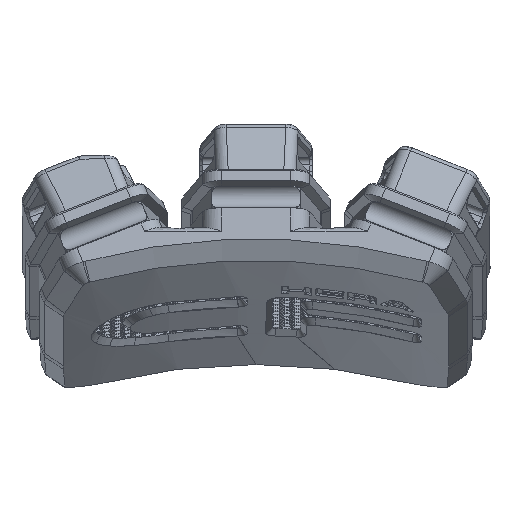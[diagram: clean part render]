
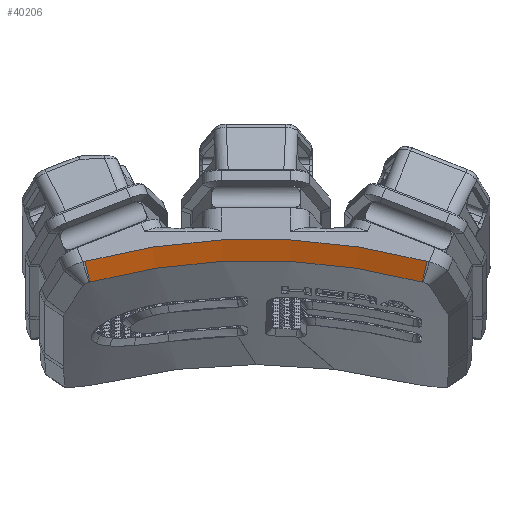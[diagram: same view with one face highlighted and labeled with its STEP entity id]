
A CAD part, left-side view. The second image highlights one B-rep face of the part: STEP entity #40206.
In plain terms, the highlighted conical face has half-angle 56.31 degrees and reference radius 103 mm.
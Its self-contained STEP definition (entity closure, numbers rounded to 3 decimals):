
#3044=LINE('',#57157,#5564);
#3045=LINE('',#57160,#5565);
#5564=VECTOR('',#46735,1000.);
#5565=VECTOR('',#46738,1000.);
#8077=CONICAL_SURFACE('',#42775,103.,0.983);
#9544=FACE_OUTER_BOUND('',#12065,.T.);
#12065=EDGE_LOOP('',(#27307,#27308,#27309,#27310));
#14702=CIRCLE('',#42776,100.);
#14703=CIRCLE('',#42777,103.);
#16799=VERTEX_POINT('',#57153);
#16800=VERTEX_POINT('',#57154);
#16801=VERTEX_POINT('',#57156);
#16802=VERTEX_POINT('',#57158);
#20841=EDGE_CURVE('',#16799,#16800,#14702,.T.);
#20842=EDGE_CURVE('',#16801,#16800,#3044,.T.);
#20843=EDGE_CURVE('',#16802,#16801,#14703,.T.);
#20844=EDGE_CURVE('',#16799,#16802,#3045,.T.);
#27307=ORIENTED_EDGE('',*,*,#20841,.T.);
#27308=ORIENTED_EDGE('',*,*,#20842,.F.);
#27309=ORIENTED_EDGE('',*,*,#20843,.F.);
#27310=ORIENTED_EDGE('',*,*,#20844,.F.);
#40206=ADVANCED_FACE('',(#9544),#8077,.F.);
#42775=AXIS2_PLACEMENT_3D('',#57152,#46731,#46732);
#42776=AXIS2_PLACEMENT_3D('',#57155,#46733,#46734);
#42777=AXIS2_PLACEMENT_3D('',#57159,#46736,#46737);
#46731=DIRECTION('center_axis',(-0.965,0.,
0.262));
#46732=DIRECTION('ref_axis',(0.262,0.,0.965));
#46733=DIRECTION('center_axis',(0.965,0.,
-0.262));
#46734=DIRECTION('ref_axis',(0.262,0.,0.965));
#46735=DIRECTION('',(0.325,0.221,-0.92));
#46736=DIRECTION('center_axis',(0.965,0.,
-0.262));
#46737=DIRECTION('ref_axis',(0.262,0.,0.965));
#46738=DIRECTION('',(-0.325,0.221,0.92));
#57152=CARTESIAN_POINT('Origin',(-53.273,0.,
-287.825));
#57153=CARTESIAN_POINT('',(-26.053,26.547,-195.314));
#57154=CARTESIAN_POINT('',(-26.053,-26.547,-195.314));
#57155=CARTESIAN_POINT('Origin',(-51.343,0.,
-288.35));
#57156=CARTESIAN_POINT('',(-27.224,-27.344,-191.998));
#57157=CARTESIAN_POINT('',(-26.638,-26.945,-193.656));
#57158=CARTESIAN_POINT('',(-27.224,27.344,-191.998));
#57159=CARTESIAN_POINT('Origin',(-53.273,0.,
-287.825));
#57160=CARTESIAN_POINT('',(-26.638,26.945,-193.656));
